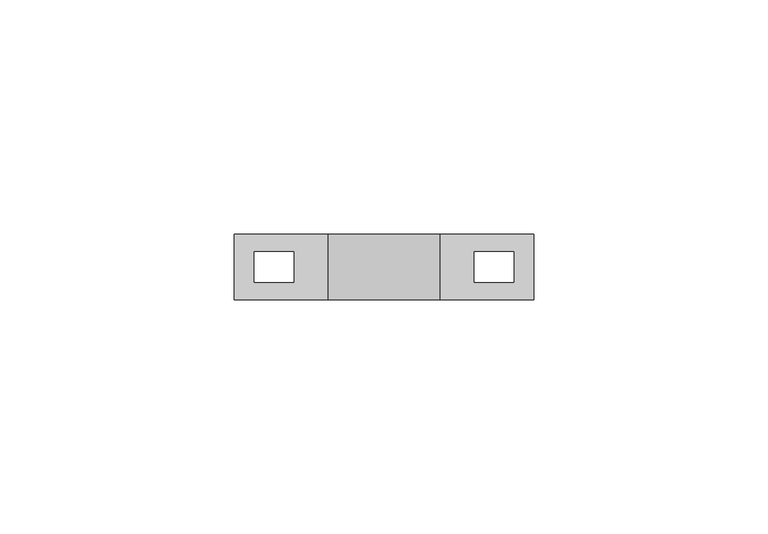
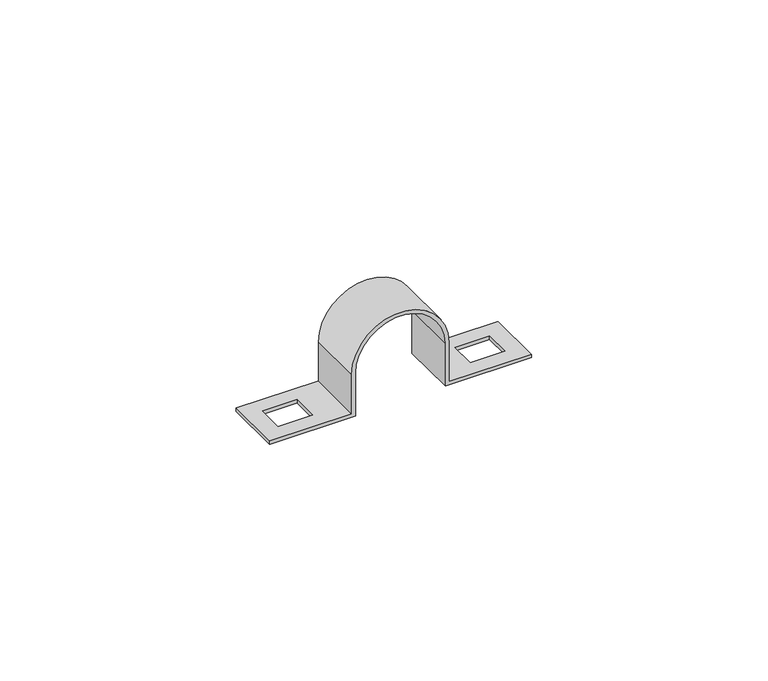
"""IFC4 building model written with IfcOpenShell, lengths in millimetres: cable carrier fitting geometry."""

from ifc_helpers import new_model, si_unit, frame, origin, place, context, project, spatial, polyline, circle_curve, source, transform, mapped, element, save
from ifc_brep_helpers import plane_surface, cylinder_surface, revolved_surface, advanced_brep


def cable_carrier_fitting_c44e37c7(model_context):
    return source(origin(), model_context, "Body", "AdvancedBrep", [
        advanced_brep(
        [(32.0, -7.0, 0.0), (32.0, -7.0, 0.9), (11.9, -7.0, 0.9), (11.9, -7.0, 11.0), (-11.9, -7.0, 11.0), (-11.9, -7.0, 0.9), (-32.0, -7.0, 0.9), (-32.0, -7.0, 0.0), (-11.0, -7.0, 0.0), (-11.0, -7.0, 11.0), (11.0, -7.0, 11.0), (11.0, -7.0, 0.0), (32.0, 7.0, 0.0), (11.0, 7.0, 0.0), (11.0, 7.0, 11.0), (-11.0, 7.0, 11.0), (-11.0, 7.0, 0.0), (-32.0, 7.0, 0.0), (-32.0, 7.0, 0.9), (-11.9, 7.0, 0.9), (-11.9, 7.0, 11.0), (11.9, 7.0, 11.0), (11.9, 7.0, 0.9), (32.0, 7.0, 0.9), (27.75, -3.25, 0.9), (19.25, -3.25, 0.9), (19.25, 3.25, 0.9), (27.75, 3.25, 0.9), (-27.75, 3.25, 0.9), (-19.25, 3.25, 0.9), (-19.25, -3.25, 0.9), (-27.75, -3.25, 0.9), (-19.25, 3.25, 0.0), (-27.75, 3.25, 0.0), (-27.75, -3.25, 0.0), (-19.25, -3.25, 0.0), (19.25, -3.25, 0.0), (27.75, -3.25, 0.0), (27.75, 3.25, 0.0), (19.25, 3.25, 0.0)],
        [
            (0, 1),
            (1, 2),
            (2, 3),
            (3, 4, circle_curve(frame((0.0, -7.0, 11.0), z_axis=(0.0, -1.0, 0.0), x_axis=(1.0, 0.0, 0.0)), 11.9)),
            (4, 5),
            (5, 6),
            (6, 7),
            (7, 8),
            (8, 9),
            (9, 10, circle_curve(frame((0.0, -7.0, 11.0), z_axis=(0.0, 1.0, 0.0), x_axis=(1.0, 0.0, 0.0)), 11.0)),
            (10, 11),
            (11, 0),
            (12, 13),
            (13, 14),
            (14, 15, circle_curve(frame((0.0, 7.0, 11.0), z_axis=(0.0, -1.0, 0.0), x_axis=(1.0, 0.0, 0.0)), 11.0)),
            (15, 16),
            (16, 17),
            (17, 18),
            (18, 19),
            (19, 20),
            (20, 21, circle_curve(frame((0.0, 7.0, 11.0), z_axis=(0.0, 1.0, 0.0), x_axis=(1.0, 0.0, 0.0)), 11.9)),
            (21, 22),
            (22, 23),
            (23, 12),
            (0, 12),
            (23, 1),
            (22, 2),
            (24, 25),
            (25, 26),
            (26, 27),
            (27, 24),
            (21, 3),
            (20, 4),
            (19, 5),
            (18, 6),
            (28, 29),
            (29, 30),
            (30, 31),
            (31, 28),
            (17, 7),
            (16, 8),
            (32, 33),
            (33, 34),
            (34, 35),
            (35, 32),
            (15, 9),
            (14, 10),
            (13, 11),
            (36, 37),
            (37, 38),
            (38, 39),
            (39, 36),
            (32, 29),
            (28, 33),
            (31, 34),
            (30, 35),
            (36, 25),
            (24, 37),
            (27, 38),
            (26, 39),
        ],
        [
            plane_surface(frame((32.0, -7.0, 0.9), z_axis=(0.0, -1.0, 0.0), x_axis=(0.0, 0.0, 1.0))),
            plane_surface(frame((32.0, 7.0, 0.9), z_axis=(0.0, 1.0, 0.0), x_axis=(0.0, 0.0, -1.0))),
            plane_surface(frame((32.0, -7.0, 0.0), z_axis=(1.0, 0.0, 0.0), x_axis=(0.0, 1.0, 0.0))),
            plane_surface(frame((32.0, -7.0, 0.9), z_axis=(0.0, 0.0, 1.0), x_axis=(0.0, 1.0, 0.0))),
            plane_surface(frame((11.9, -7.0, 0.9), z_axis=(1.0, 0.0, 0.0), x_axis=(0.0, 1.0, 0.0))),
            cylinder_surface(frame((0.0, 7.0, 11.0), z_axis=(0.0, -1.0, 0.0), x_axis=(1.0, 0.0, 0.0)), 11.9),
            plane_surface(frame((-11.9, -7.0, 11.0), z_axis=(-1.0, 0.0, 0.0), x_axis=(0.0, 1.0, 0.0))),
            plane_surface(frame((-11.9, -7.0, 0.9), z_axis=(0.0, 0.0, 1.0), x_axis=(0.0, 1.0, 0.0))),
            plane_surface(frame((-32.0, -7.0, 0.9), z_axis=(-1.0, 0.0, 0.0), x_axis=(0.0, 1.0, 0.0))),
            plane_surface(frame((-32.0, -7.0, 0.0), z_axis=(0.0, 0.0, -1.0), x_axis=(0.0, 1.0, 0.0))),
            plane_surface(frame((-11.0, -7.0, 0.0), z_axis=(1.0, 0.0, 0.0), x_axis=(0.0, 1.0, 0.0))),
            revolved_surface(polyline([(11.0, 7.0, 11.0), (11.0, -7.0, 11.0)]), (0.0, 7.0, 11.0), (0.0, 1.0, 0.0)),
            plane_surface(frame((11.0, -7.0, 11.0), z_axis=(-1.0, 0.0, 0.0), x_axis=(0.0, 1.0, 0.0))),
            plane_surface(frame((11.0, -7.0, 0.0), z_axis=(0.0, 0.0, -1.0), x_axis=(0.0, 1.0, 0.0))),
            plane_surface(frame((-19.25, 3.25, 21.959409), z_axis=(0.0, -1.0, 0.0), x_axis=(0.0, 0.0, -1.0))),
            plane_surface(frame((-27.75, 3.25, 21.959409), z_axis=(1.0, 0.0, 0.0), x_axis=(0.0, 0.0, -1.0))),
            plane_surface(frame((-27.75, -3.25, 21.959409), z_axis=(0.0, 1.0, 0.0), x_axis=(0.0, 0.0, -1.0))),
            plane_surface(frame((-19.25, -3.25, 21.959409), z_axis=(-1.0, 0.0, 0.0), x_axis=(0.0, 0.0, -1.0))),
            plane_surface(frame((19.25, -3.25, 21.959409), z_axis=(0.0, 1.0, 0.0), x_axis=(0.0, 0.0, -1.0))),
            plane_surface(frame((27.75, -3.25, 21.959409), z_axis=(-1.0, 0.0, 0.0), x_axis=(0.0, 0.0, -1.0))),
            plane_surface(frame((27.75, 3.25, 21.959409), z_axis=(0.0, -1.0, 0.0), x_axis=(0.0, 0.0, -1.0))),
            plane_surface(frame((19.25, 3.25, 21.959409), z_axis=(1.0, 0.0, 0.0), x_axis=(0.0, 0.0, -1.0))),
        ],
        [
            (0, [[1, 2, 3, 4, 5, 6, 7, 8, 9, 10, 11, 12]]),
            (1, [[13, 14, 15, 16, 17, 18, 19, 20, 21, 22, 23, 24]]),
            (2, [[-1, 25, -24, 26]]),
            (3, [[-2, -26, -23, 27], [28, 29, 30, 31]]),
            (4, [[-3, -27, -22, 32]]),
            (5, [[-4, -32, -21, 33]]),
            (6, [[-5, -33, -20, 34]]),
            (7, [[-6, -34, -19, 35], [36, 37, 38, 39]]),
            (8, [[-7, -35, -18, 40]]),
            (9, [[-8, -40, -17, 41], [42, 43, 44, 45]]),
            (10, [[-9, -41, -16, 46]]),
            (11, [[-10, -46, -15, 47]]),
            (12, [[-11, -47, -14, 48]]),
            (13, [[-12, -48, -13, -25], [49, 50, 51, 52]]),
            (14, [[53, -36, 54, -42]]),
            (15, [[-54, -39, 55, -43]]),
            (16, [[-55, -38, 56, -44]]),
            (17, [[-53, -45, -56, -37]]),
            (18, [[57, -28, 58, -49]]),
            (19, [[-58, -31, 59, -50]]),
            (20, [[-59, -30, 60, -51]]),
            (21, [[-57, -52, -60, -29]]),
        ],
    ),
    ])


if __name__ == "__main__":
    model = new_model("IFC4")
    model_context = context("Model", 3, world=origin())
    ifc_project = project(units=[si_unit("LENGTHUNIT", "METRE", prefix="MILLI")], contexts=[model_context])
    site = spatial("IfcSite", under=ifc_project)
    building = spatial("IfcBuilding", under=site)
    placement = place(None, origin())
    cable_carrier_fitting_shape = cable_carrier_fitting_c44e37c7(model_context)
    element("IfcCableCarrierFitting", 1, at=placement, inside=building, context=model_context, shape_type="MappedRepresentation", body=[
        mapped(cable_carrier_fitting_shape, transform((0.0, 0.0, 0.0), x_axis=(1.0, 0.0, 0.0), y_axis=(0.0, 1.0, 0.0), z_axis=(0.0, 0.0, 1.0))),
    ])
    save(model, "model.ifc")
